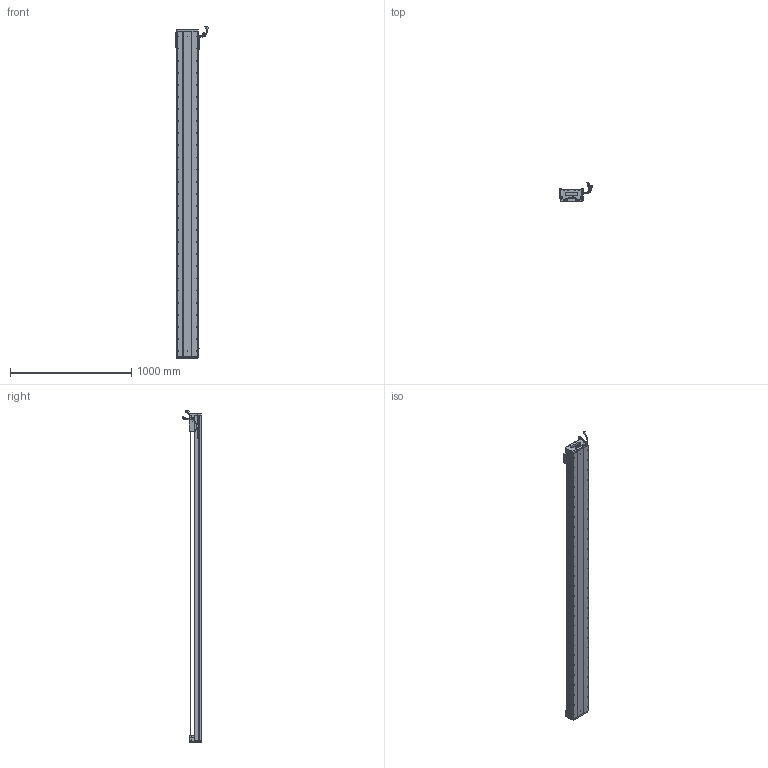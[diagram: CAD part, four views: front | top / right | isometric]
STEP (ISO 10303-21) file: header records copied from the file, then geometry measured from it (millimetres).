
FILE_DESCRIPTION (( 'STEP AP203' ), '1' );
FILE_NAME ('Z1-RY170D-1-L500-B-K.SLDASM_2500.step', '2021-05-17T08:55:52', ( '盈信电脑' ), ( '东莞市道滘镇水果街19号' ), 'SwSTEP 2.0', 'SolidWorks 2016', '' );
FILE_SCHEMA (( 'CONFIG_CONTROL_DESIGN' ));
Length unit declared in the file: millimetre
Products named in the file (36): SHIELDPLATE; RY170直线电机感应器672光电感应片; HARNESS; SEAL; SCREW-M1.6-3; SCREW-M1.7; SCREW-M1.6-2; SEAL-Part-1; 170-Z-臏賑輸盄裔(21遴); SCREW-M1.7-1; Z1-RY170D-1-L500-B-K.SLDASM_2500; Z-RY170詩湍狟揤裔; Z-170詩湍傷裔啣; SCREW-M1.6-1; PBU_SHEET; 140蚥薯蝶輸; SCALE-Part-2; COVER-Part-1; 080黍杅芛假蚾釱21遴; 榋妏寠巭燃_暯_M2_2; 140雄赽晤鎢ん堤盄; LABEL-Part-1; PSLH080_PSLF2; SCALE; HARNESS-Part-2; Z1-RY170-L500耀郪菁釱_2500; Z-RY170詩湍奻揤裔; Z1-RY170臏賑輸(21遴); SCALE-Part-1; HARNESS-Part-1; COVER; LABEL; Z1-RY170-L500詩湍145mm遵_2500; 覜茼ん672; HOLDER0; SCREW-M1.6
Assembly tree (41 placements, depth 4):
  Z1-RY170D-1-L500-B-K.SLDASM_2500
    Z1-RY170-L500耀郪菁釱_2500
    RY170直线电机感应器672光电感应片
    Z1-RY170臏賑輸(21遴)
    覜茼ん672  x3
    PSLH080_PSLF2
      SCALE
        SCALE-Part-1
        SCALE-Part-2
      HARNESS
        HARNESS-Part-1
        HARNESS-Part-2
      LABEL
        LABEL-Part-1
      COVER
        COVER-Part-1
      SEAL
        SEAL-Part-1
      榋妏寠巭燃_暯_M2_2
      SHIELDPLATE
      SCREW-M1.7
      SCREW-M1.7-1
      PBU_SHEET
      SCREW-M1.6
      SCREW-M1.6-1
      SCREW-M1.6-2
      SCREW-M1.6-3
      HOLDER0
    080黍杅芛假蚾釱21遴
    Z1-RY170-L500詩湍145mm遵_2500
    Z-170詩湍傷裔啣  x2
    Z-RY170詩湍奻揤裔  x2
    Z-RY170詩湍狟揤裔  x2
    140蚥薯蝶輸  x2
    170-Z-臏賑輸盄裔(21遴)
    140雄赽晤鎢ん堤盄
Bounding box: 275.29 x 158.11 x 2743.72 mm (x, y, z)
Volume: 13069384.2 mm3; surface area: 3271022.3 mm2
Topology: 36 solids, 36 shells, 4056 faces, 11299 edges, 7059 vertices
Faces by surface type: cylinder 2058, plane 1308, cone 568, torus 69, bspline 53
Entity records: 128563 total; most frequent: CARTESIAN_POINT 36488, ORIENTED_EDGE 19034, DIRECTION 17565, EDGE_CURVE 9517, AXIS2_PLACEMENT_3D 6458, VERTEX_POINT 6177, VECTOR 4649, LINE 4649
